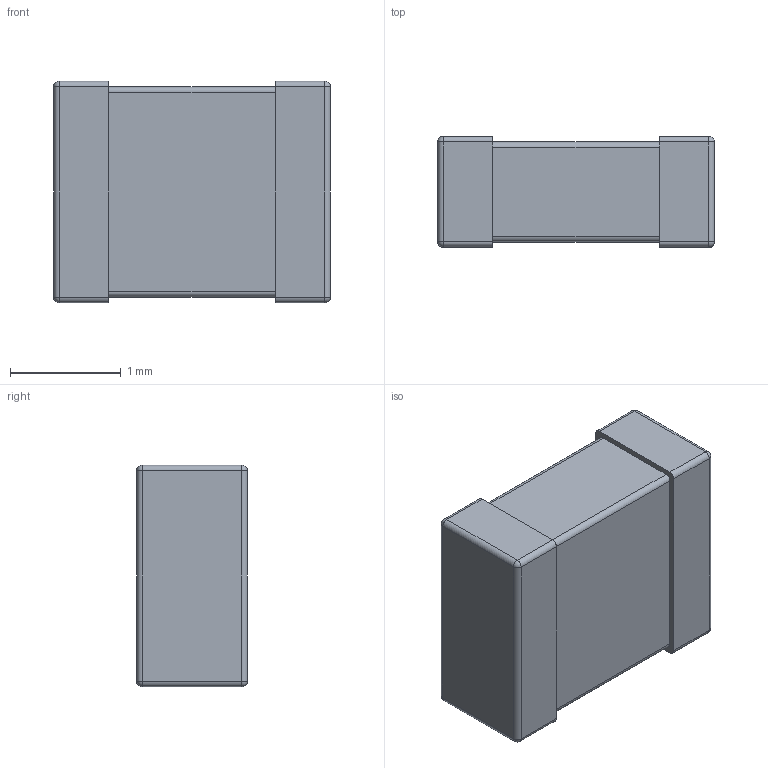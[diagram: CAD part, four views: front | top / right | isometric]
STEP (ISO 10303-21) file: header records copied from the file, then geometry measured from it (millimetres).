
FILE_DESCRIPTION (( 'STEP AP214' ), '1' );
FILE_NAME ( 'INDC250X200X100L50.STEP', '2021-10-06T06:49:13', ( '' ), ( '' ), '', '©2017 PCB Libraries, Inc.', '' );
FILE_SCHEMA (( 'AUTOMOTIVE_DESIGN' ));
Length unit declared in the file: millimetre
Products named in the file (1): INDC250X200X100L50
Bounding box: 2.5 x 1 x 2 mm (x, y, z)
Volume: 4.6 mm3; surface area: 25.3 mm2
Topology: 3 solids, 3 shells, 46 faces, 104 edges, 56 vertices
Faces by surface type: cylinder 20, plane 18, sphere 8
Entity records: 1394 total; most frequent: DIRECTION 230, CARTESIAN_POINT 199, ORIENTED_EDGE 192, EDGE_CURVE 96, AXIS2_PLACEMENT_3D 87, VERTEX_POINT 56, VECTOR 56, LINE 56
